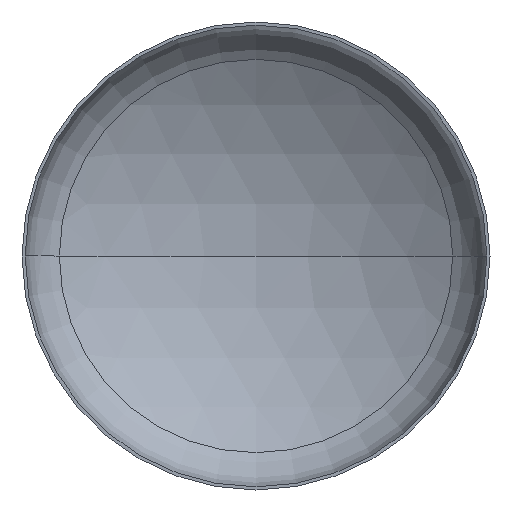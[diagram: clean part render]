
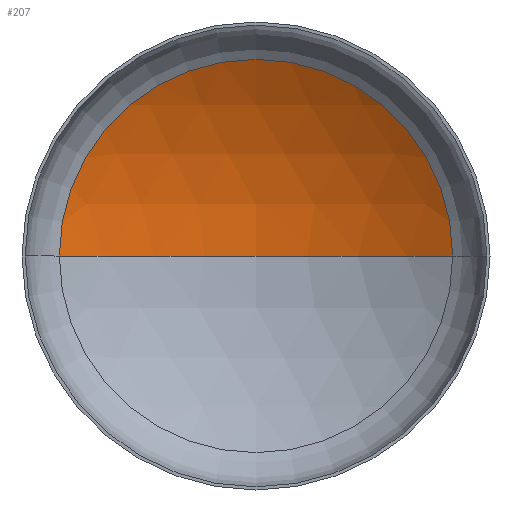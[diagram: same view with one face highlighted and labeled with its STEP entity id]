
A CAD part, front view. The second image highlights one B-rep face of the part: STEP entity #207.
In plain terms, the highlighted spherical face has radius 5200 mm.
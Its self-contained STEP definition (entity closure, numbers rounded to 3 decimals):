
#4 = CARTESIAN_POINT ( 'NONE',  ( 2731.238, 990.955, 0. ) ) ;
#11 = DIRECTION ( 'NONE',  ( -1., 0., 0. ) ) ;
#14 = ORIENTED_EDGE ( 'NONE', *, *, #159, .T. ) ;
#16 = AXIS2_PLACEMENT_3D ( 'NONE', #248, #244, #135 ) ;
#27 = CIRCLE ( 'NONE', #61, 5200. ) ;
#32 = VERTEX_POINT ( 'NONE', #167 ) ;
#59 = CIRCLE ( 'NONE', #16, 5200. ) ;
#61 = AXIS2_PLACEMENT_3D ( 'NONE', #84, #81, #80 ) ;
#80 = DIRECTION ( 'NONE',  ( -1., 0., 0. ) ) ;
#81 = DIRECTION ( 'NONE',  ( 0., 0., -1. ) ) ;
#84 = CARTESIAN_POINT ( 'NONE',  ( 0., -3434.012, 0. ) ) ;
#90 = AXIS2_PLACEMENT_3D ( 'NONE', #131, #349, #293 ) ;
#118 = EDGE_CURVE ( 'NONE', #301, #32, #59, .T. ) ;
#121 = ORIENTED_EDGE ( 'NONE', *, *, #206, .T. ) ;
#131 = CARTESIAN_POINT ( 'NONE',  ( 0., 990.955, 0. ) ) ;
#132 = CIRCLE ( 'NONE', #90, 2731.238 ) ;
#133 = EDGE_LOOP ( 'NONE', ( #398, #121, #14 ) ) ;
#135 = DIRECTION ( 'NONE',  ( 1., 0., 0. ) ) ;
#159 = EDGE_CURVE ( 'NONE', #216, #32, #132, .T. ) ;
#161 = CARTESIAN_POINT ( 'NONE',  ( 0., -3434.012, 0. ) ) ;
#166 = DIRECTION ( 'NONE',  ( 0., 0., -1. ) ) ;
#167 = CARTESIAN_POINT ( 'NONE',  ( -2731.238, 990.955, 0. ) ) ;
#197 = AXIS2_PLACEMENT_3D ( 'NONE', #161, #166, #11 ) ;
#206 = EDGE_CURVE ( 'NONE', #301, #216, #27, .T. ) ;
#207 = ADVANCED_FACE ( 'NONE', ( #214 ), #279, .F. ) ;
#214 = FACE_OUTER_BOUND ( 'NONE', #133, .T. ) ;
#216 = VERTEX_POINT ( 'NONE', #4 ) ;
#244 = DIRECTION ( 'NONE',  ( 0., 0., 1. ) ) ;
#248 = CARTESIAN_POINT ( 'NONE',  ( 0., -3434.012, 0. ) ) ;
#279 = SPHERICAL_SURFACE ( 'NONE', #197, 5200. ) ;
#293 = DIRECTION ( 'NONE',  ( 1., 0., 0. ) ) ;
#301 = VERTEX_POINT ( 'NONE', #378 ) ;
#349 = DIRECTION ( 'NONE',  ( 0., -1., 0. ) ) ;
#378 = CARTESIAN_POINT ( 'NONE',  ( 0., 1765.988, 0. ) ) ;
#398 = ORIENTED_EDGE ( 'NONE', *, *, #118, .F. ) ;
